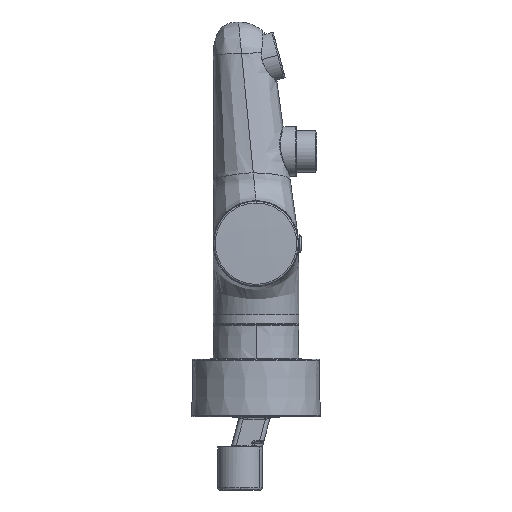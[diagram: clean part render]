
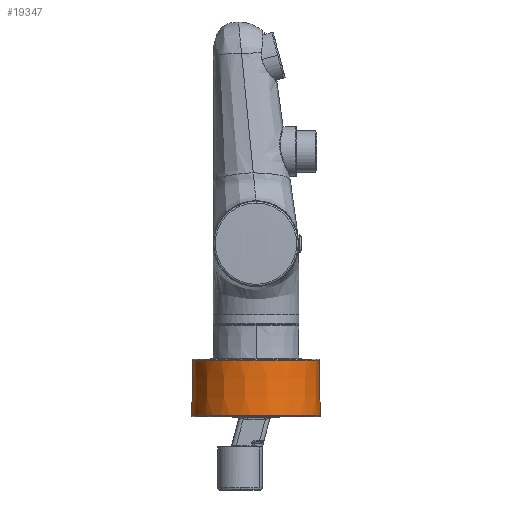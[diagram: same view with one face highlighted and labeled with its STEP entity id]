
A CAD part, left-side view. The second image highlights one B-rep face of the part: STEP entity #19347.
In plain terms, the highlighted conical face has half-angle 0.955 degrees and reference radius 29.991 mm.
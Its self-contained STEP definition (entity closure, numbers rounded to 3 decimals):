
#1466 = DIRECTION ( 'NONE',  ( 0., 0., -1. ) ) ;
#1675 = ORIENTED_EDGE ( 'NONE', *, *, #12467, .T. ) ;
#2022 = EDGE_LOOP ( 'NONE', ( #21724, #5957, #1675, #8591, #22976, #14096 ) ) ;
#2681 = AXIS2_PLACEMENT_3D ( 'NONE', #8736, #16264, #21476 ) ;
#3015 = DIRECTION ( 'NONE',  ( 0., 0., 1. ) ) ;
#4017 = DIRECTION ( 'NONE',  ( -0.479, -0.878, 0. ) ) ;
#4232 = AXIS2_PLACEMENT_3D ( 'NONE', #12571, #1466, #16529 ) ;
#4807 = CARTESIAN_POINT ( 'NONE',  ( -75., 39.86, -97.477 ) ) ;
#5178 = AXIS2_PLACEMENT_3D ( 'NONE', #13320, #19107, #4017 ) ;
#5489 = CARTESIAN_POINT ( 'NONE',  ( -75., -19.691, -123.342 ) ) ;
#5593 = AXIS2_PLACEMENT_3D ( 'NONE', #8992, #3015, #10853 ) ;
#5624 = VERTEX_POINT ( 'NONE', #5489 ) ;
#5957 = ORIENTED_EDGE ( 'NONE', *, *, #6038, .T. ) ;
#6038 = EDGE_CURVE ( 'NONE', #17041, #9727, #7221, .T. ) ;
#7221 = CIRCLE ( 'NONE', #2681, 29.56 ) ;
#8244 = CARTESIAN_POINT ( 'NONE',  ( -75., -19.26, -97.477 ) ) ;
#8484 = AXIS2_PLACEMENT_3D ( 'NONE', #19591, #15942, #10536 ) ;
#8591 = ORIENTED_EDGE ( 'NONE', *, *, #17403, .T. ) ;
#8686 = DIRECTION ( 'NONE',  ( 0., 0.017, -1. ) ) ;
#8736 = CARTESIAN_POINT ( 'NONE',  ( -75., 10.3, -97.477 ) ) ;
#8992 = CARTESIAN_POINT ( 'NONE',  ( -75., 10.3, -123.342 ) ) ;
#9727 = VERTEX_POINT ( 'NONE', #4807 ) ;
#10426 = CONICAL_SURFACE ( 'NONE', #4232, 29.991, 0.017 ) ;
#10536 = DIRECTION ( 'NONE',  ( -0.479, -0.878, 0. ) ) ;
#10770 = CARTESIAN_POINT ( 'NONE',  ( -75., 40.291, -123.342 ) ) ;
#10853 = DIRECTION ( 'NONE',  ( -0.479, -0.878, 0. ) ) ;
#11736 = CIRCLE ( 'NONE', #8484, 29.56 ) ;
#11800 = CARTESIAN_POINT ( 'NONE',  ( -75., -19.691, -123.342 ) ) ;
#12226 = EDGE_CURVE ( 'NONE', #17468, #5624, #20117, .T. ) ;
#12438 = CIRCLE ( 'NONE', #5178, 29.991 ) ;
#12467 = EDGE_CURVE ( 'NONE', #9727, #17972, #13673, .T. ) ;
#12571 = CARTESIAN_POINT ( 'NONE',  ( -75., 10.3, -123.342 ) ) ;
#13320 = CARTESIAN_POINT ( 'NONE',  ( -75., 10.3, -123.342 ) ) ;
#13673 = LINE ( 'NONE', #19698, #21560 ) ;
#14096 = ORIENTED_EDGE ( 'NONE', *, *, #12226, .F. ) ;
#14117 = EDGE_CURVE ( 'NONE', #17272, #5624, #20200, .T. ) ;
#14562 = VECTOR ( 'NONE', #19303, 1000. ) ;
#15942 = DIRECTION ( 'NONE',  ( 0., 0., -1. ) ) ;
#16264 = DIRECTION ( 'NONE',  ( 0., 0., -1. ) ) ;
#16529 = DIRECTION ( 'NONE',  ( 0., -1., 0. ) ) ;
#16628 = CARTESIAN_POINT ( 'NONE',  ( -89.248, -16.091, -123.342 ) ) ;
#17041 = VERTEX_POINT ( 'NONE', #17676 ) ;
#17272 = VERTEX_POINT ( 'NONE', #16628 ) ;
#17403 = EDGE_CURVE ( 'NONE', #17972, #17272, #12438, .T. ) ;
#17468 = VERTEX_POINT ( 'NONE', #8244 ) ;
#17676 = CARTESIAN_POINT ( 'NONE',  ( -89.037, -15.715, -97.477 ) ) ;
#17972 = VERTEX_POINT ( 'NONE', #10770 ) ;
#19107 = DIRECTION ( 'NONE',  ( 0., 0., 1. ) ) ;
#19303 = DIRECTION ( 'NONE',  ( 0., -0.017, -1. ) ) ;
#19347 = ADVANCED_FACE ( 'NONE', ( #22999 ), #10426, .T. ) ;
#19591 = CARTESIAN_POINT ( 'NONE',  ( -75., 10.3, -97.477 ) ) ;
#19698 = CARTESIAN_POINT ( 'NONE',  ( -75., 40.291, -123.342 ) ) ;
#20117 = LINE ( 'NONE', #11800, #14562 ) ;
#20200 = CIRCLE ( 'NONE', #5593, 29.991 ) ;
#21476 = DIRECTION ( 'NONE',  ( -0.479, -0.878, 0. ) ) ;
#21560 = VECTOR ( 'NONE', #8686, 1000. ) ;
#21724 = ORIENTED_EDGE ( 'NONE', *, *, #23409, .T. ) ;
#22976 = ORIENTED_EDGE ( 'NONE', *, *, #14117, .T. ) ;
#22999 = FACE_OUTER_BOUND ( 'NONE', #2022, .T. ) ;
#23409 = EDGE_CURVE ( 'NONE', #17468, #17041, #11736, .T. ) ;
